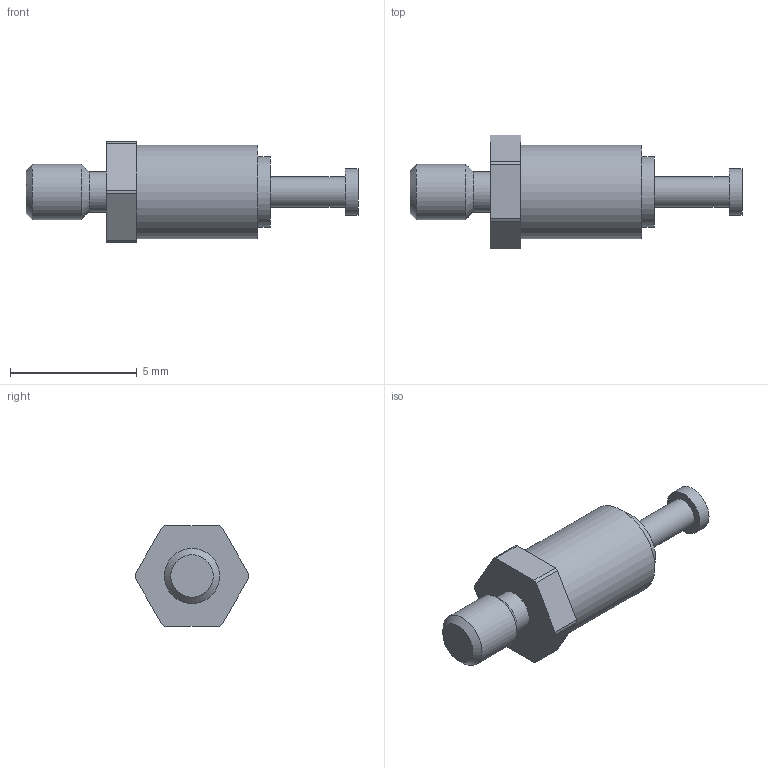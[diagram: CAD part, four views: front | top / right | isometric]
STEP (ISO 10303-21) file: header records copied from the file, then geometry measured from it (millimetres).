
FILE_DESCRIPTION(/* description */ (''),/* implementation_level */ '2;1');
FILE_NAME(/* name */ '\\Snap1\dwgs\Customer 3D Models\572\572-4870-01 Customer model.stp',/* time_stamp */ '2017-01-12T11:19:55+00:00',/* author */ ('paulk'),/* organization */ (''),/* preprocessor_version */ 'ST-DEVELOPER v15.2',/* originating_system */ 'Autodesk Inventor 2014',/* authorisation */ '');
FILE_SCHEMA (('CONFIG_CONTROL_DESIGN'));
Length unit declared in the file: millimetre
Products named in the file (1): 572-4870-01 Customer model
Bounding box: 13.11 x 4.5 x 3.96 mm (x, y, z)
Volume: 85.7 mm3; surface area: 142 mm2
Topology: 1 solids, 1 shells, 27 faces, 57 edges, 37 vertices
Faces by surface type: plane 13, cylinder 12, cone 2
Full cylindrical faces by diameter (mm): 1.194 x1, 1.6 x1, 1.829 x1, 2.184 x1, 2.769 x1, 3.708 x1
Entity records: 761 total; most frequent: DIRECTION 130, CARTESIAN_POINT 114, ORIENTED_EDGE 98, AXIS2_PLACEMENT_3D 53, EDGE_CURVE 49, EDGE_LOOP 40, VERTEX_POINT 37, STYLED_ITEM 28
